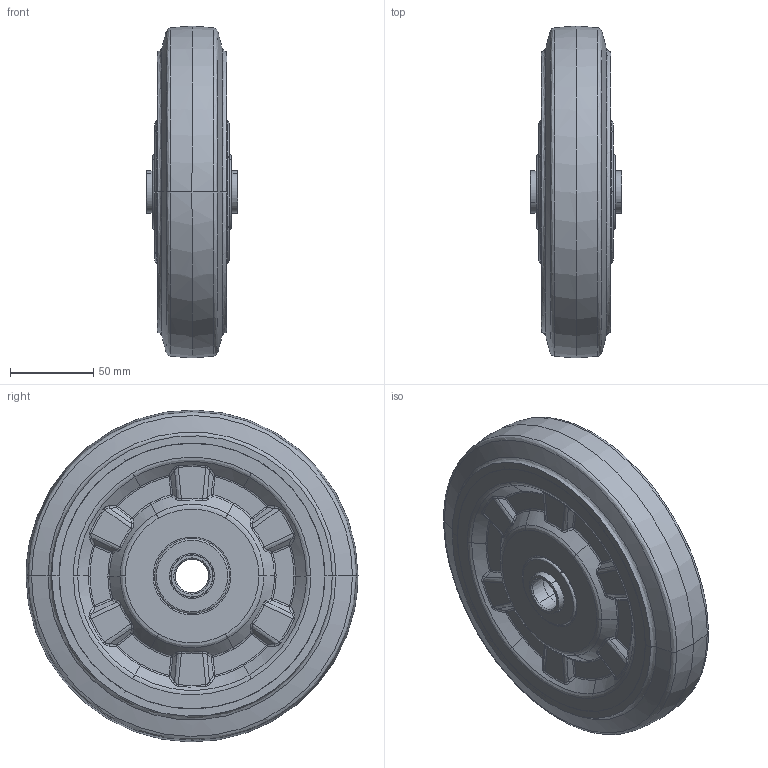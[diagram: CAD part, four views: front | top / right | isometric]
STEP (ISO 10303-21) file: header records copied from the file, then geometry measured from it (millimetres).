
FILE_DESCRIPTION (( 'STEP AP214' ), '1' );
FILE_NAME ('GR-200W.STEP', '2022-08-23T05:41:34', ( '' ), ( '' ), 'SwSTEP 2.0', 'SolidWorks 2010', '' );
FILE_SCHEMA (( 'AUTOMOTIVE_DESIGN' ));
Products named in the file (6): GR-200W-10; GR-200W-15; GR-200W-20; GR-200W-25; GR-200W-30; GR-200W
Assembly tree (5 placements, depth 2):
  GR-200W
    GR-200W-20
    GR-200W-25
    GR-200W-15
    GR-200W-10
    GR-200W-30
Bounding box: 55 x 200 x 199.98 mm (x, y, z)
Volume: 452559.7 mm3; surface area: 251873.6 mm2
Topology: 10 solids, 10 shells, 1074 faces, 2992 edges, 1881 vertices
Faces by surface type: bspline 990, plane 84
Entity records: 210559 total; most frequent: CARTESIAN_POINT 191617, ORIENTED_EDGE 5838, EDGE_CURVE 2919, B_SPLINE_CURVE_WITH_KNOTS 2731, VERTEX_POINT 1881, EDGE_LOOP 1110, FACE_OUTER_BOUND 1074, ADVANCED_FACE 1074
